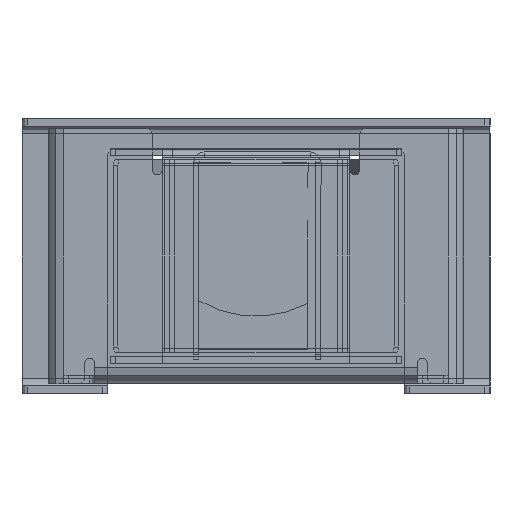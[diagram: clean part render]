
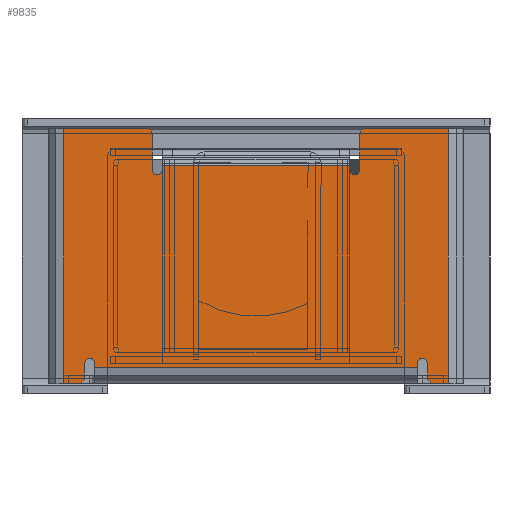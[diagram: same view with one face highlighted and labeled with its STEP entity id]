
A CAD part, front view. The second image highlights one B-rep face of the part: STEP entity #9835.
In plain terms, the highlighted planar face has unit normal (0, -1, 0).
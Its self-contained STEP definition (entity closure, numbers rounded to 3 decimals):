
#354=CIRCLE('',#10506,1.);
#363=CIRCLE('',#10518,1.);
#380=CIRCLE('',#10551,1.);
#381=CIRCLE('',#10554,1.);
#382=CIRCLE('',#10557,1.);
#383=CIRCLE('',#10560,1.);
#386=CIRCLE('',#10567,1.);
#387=CIRCLE('',#10570,1.);
#814=FACE_OUTER_BOUND('',#1392,.T.);
#1392=EDGE_LOOP('',(#6853,#6854,#6855,#6856,#6857,#6858,#6859,#6860,#6861,
#6862,#6863,#6864,#6865,#6866,#6867,#6868,#6869,#6870,#6871,#6872,#6873,
#6874,#6875,#6876));
#2107=LINE('',#14827,#3087);
#2125=LINE('',#14880,#3105);
#2166=LINE('',#14999,#3146);
#2170=LINE('',#15009,#3150);
#2174=LINE('',#15019,#3154);
#2181=LINE('',#15041,#3161);
#2183=LINE('',#15046,#3163);
#2184=LINE('',#15047,#3164);
#2185=LINE('',#15049,#3165);
#2186=LINE('',#15050,#3166);
#2187=LINE('',#15051,#3167);
#2188=LINE('',#15052,#3168);
#2189=LINE('',#15054,#3169);
#2190=LINE('',#15055,#3170);
#2191=LINE('',#15057,#3171);
#2192=LINE('',#15060,#3172);
#3087=VECTOR('',#11965,10.);
#3105=VECTOR('',#12005,10.);
#3146=VECTOR('',#12112,10.);
#3150=VECTOR('',#12122,10.);
#3154=VECTOR('',#12132,10.);
#3161=VECTOR('',#12159,10.);
#3163=VECTOR('',#12163,10.);
#3164=VECTOR('',#12164,10.);
#3165=VECTOR('',#12165,10.);
#3166=VECTOR('',#12166,10.);
#3167=VECTOR('',#12167,10.);
#3168=VECTOR('',#12168,10.);
#3169=VECTOR('',#12169,10.);
#3170=VECTOR('',#12170,10.);
#3171=VECTOR('',#12171,10.);
#3172=VECTOR('',#12174,10.);
#4011=VERTEX_POINT('',#14814);
#4012=VERTEX_POINT('',#14815);
#4016=VERTEX_POINT('',#14825);
#4038=VERTEX_POINT('',#14873);
#4039=VERTEX_POINT('',#14875);
#4040=VERTEX_POINT('',#14879);
#4083=VERTEX_POINT('',#14992);
#4084=VERTEX_POINT('',#14993);
#4085=VERTEX_POINT('',#14998);
#4086=VERTEX_POINT('',#15002);
#4087=VERTEX_POINT('',#15004);
#4088=VERTEX_POINT('',#15008);
#4089=VERTEX_POINT('',#15012);
#4090=VERTEX_POINT('',#15016);
#4091=VERTEX_POINT('',#15018);
#4092=VERTEX_POINT('',#15022);
#4095=VERTEX_POINT('',#15036);
#4096=VERTEX_POINT('',#15040);
#4097=VERTEX_POINT('',#15044);
#4098=VERTEX_POINT('',#15045);
#4099=VERTEX_POINT('',#15048);
#4100=VERTEX_POINT('',#15053);
#4101=VERTEX_POINT('',#15056);
#4102=VERTEX_POINT('',#15058);
#4987=EDGE_CURVE('',#4011,#4012,#354,.T.);
#4993=EDGE_CURVE('',#4011,#4016,#2107,.T.);
#5017=EDGE_CURVE('',#4038,#4039,#363,.T.);
#5019=EDGE_CURVE('',#4040,#4038,#2125,.T.);
#5074=EDGE_CURVE('',#4083,#4084,#380,.T.);
#5077=EDGE_CURVE('',#4085,#4084,#2166,.T.);
#5080=EDGE_CURVE('',#4086,#4087,#381,.T.);
#5082=EDGE_CURVE('',#4088,#4087,#2170,.T.);
#5084=EDGE_CURVE('',#4089,#4016,#382,.T.);
#5087=EDGE_CURVE('',#4091,#4090,#2174,.T.);
#5089=EDGE_CURVE('',#4092,#4090,#383,.T.);
#5096=EDGE_CURVE('',#4088,#4095,#386,.T.);
#5098=EDGE_CURVE('',#4095,#4096,#2181,.T.);
#5100=EDGE_CURVE('',#4097,#4098,#2183,.T.);
#5101=EDGE_CURVE('',#4012,#4098,#2184,.T.);
#5102=EDGE_CURVE('',#4089,#4099,#2185,.T.);
#5103=EDGE_CURVE('',#4099,#4091,#2186,.T.);
#5104=EDGE_CURVE('',#4092,#4039,#2187,.T.);
#5105=EDGE_CURVE('',#4040,#4096,#2188,.T.);
#5106=EDGE_CURVE('',#4086,#4100,#2189,.T.);
#5107=EDGE_CURVE('',#4100,#4085,#2190,.T.);
#5108=EDGE_CURVE('',#4083,#4101,#2191,.T.);
#5109=EDGE_CURVE('',#4102,#4101,#387,.T.);
#5110=EDGE_CURVE('',#4097,#4102,#2192,.T.);
#6853=ORIENTED_EDGE('',*,*,#5100,.T.);
#6854=ORIENTED_EDGE('',*,*,#5101,.F.);
#6855=ORIENTED_EDGE('',*,*,#4987,.F.);
#6856=ORIENTED_EDGE('',*,*,#4993,.T.);
#6857=ORIENTED_EDGE('',*,*,#5084,.F.);
#6858=ORIENTED_EDGE('',*,*,#5102,.T.);
#6859=ORIENTED_EDGE('',*,*,#5103,.T.);
#6860=ORIENTED_EDGE('',*,*,#5087,.T.);
#6861=ORIENTED_EDGE('',*,*,#5089,.F.);
#6862=ORIENTED_EDGE('',*,*,#5104,.T.);
#6863=ORIENTED_EDGE('',*,*,#5017,.F.);
#6864=ORIENTED_EDGE('',*,*,#5019,.F.);
#6865=ORIENTED_EDGE('',*,*,#5105,.T.);
#6866=ORIENTED_EDGE('',*,*,#5098,.F.);
#6867=ORIENTED_EDGE('',*,*,#5096,.F.);
#6868=ORIENTED_EDGE('',*,*,#5082,.T.);
#6869=ORIENTED_EDGE('',*,*,#5080,.F.);
#6870=ORIENTED_EDGE('',*,*,#5106,.T.);
#6871=ORIENTED_EDGE('',*,*,#5107,.T.);
#6872=ORIENTED_EDGE('',*,*,#5077,.T.);
#6873=ORIENTED_EDGE('',*,*,#5074,.F.);
#6874=ORIENTED_EDGE('',*,*,#5108,.T.);
#6875=ORIENTED_EDGE('',*,*,#5109,.F.);
#6876=ORIENTED_EDGE('',*,*,#5110,.F.);
#8806=PLANE('',#10569);
#9835=ADVANCED_FACE('',(#814),#8806,.T.);
#10506=AXIS2_PLACEMENT_3D('',#14816,#11955,#11956);
#10518=AXIS2_PLACEMENT_3D('',#14876,#12000,#12001);
#10551=AXIS2_PLACEMENT_3D('',#14994,#12106,#12107);
#10554=AXIS2_PLACEMENT_3D('',#15005,#12117,#12118);
#10557=AXIS2_PLACEMENT_3D('',#15013,#12126,#12127);
#10560=AXIS2_PLACEMENT_3D('',#15023,#12136,#12137);
#10567=AXIS2_PLACEMENT_3D('',#15037,#12154,#12155);
#10569=AXIS2_PLACEMENT_3D('',#15043,#12161,#12162);
#10570=AXIS2_PLACEMENT_3D('',#15059,#12172,#12173);
#11955=DIRECTION('center_axis',(0.,1.,0.));
#11956=DIRECTION('ref_axis',(-0.707,0.,0.707));
#11965=DIRECTION('',(0.,0.,-1.));
#12000=DIRECTION('center_axis',(0.,1.,0.));
#12001=DIRECTION('ref_axis',(0.707,0.,0.707));
#12005=DIRECTION('',(1.,0.,0.));
#12106=DIRECTION('center_axis',(0.,-1.,0.));
#12107=DIRECTION('ref_axis',(0.707,0.,0.707));
#12112=DIRECTION('',(0.,0.,1.));
#12117=DIRECTION('center_axis',(0.,-1.,0.));
#12118=DIRECTION('ref_axis',(0.707,0.,0.707));
#12122=DIRECTION('',(0.,0.,1.));
#12126=DIRECTION('center_axis',(0.,-1.,0.));
#12127=DIRECTION('ref_axis',(-0.707,0.,-0.707));
#12132=DIRECTION('',(0.,0.,-1.));
#12136=DIRECTION('center_axis',(0.,-1.,0.));
#12137=DIRECTION('ref_axis',(-0.707,0.,-0.707));
#12154=DIRECTION('center_axis',(0.,1.,0.));
#12155=DIRECTION('ref_axis',(0.707,0.,-0.707));
#12159=DIRECTION('',(-1.,0.,0.));
#12161=DIRECTION('center_axis',(0.,-1.,0.));
#12162=DIRECTION('ref_axis',(0.,0.,
1.));
#12163=DIRECTION('',(0.,0.,1.));
#12164=DIRECTION('',(1.,0.,0.));
#12165=DIRECTION('',(0.,0.,1.));
#12166=DIRECTION('',(-1.,0.,0.));
#12167=DIRECTION('',(0.,0.,1.));
#12168=DIRECTION('',(0.,0.,-1.));
#12169=DIRECTION('',(0.,0.,-1.));
#12170=DIRECTION('',(1.,0.,0.));
#12171=DIRECTION('',(0.,0.,-1.));
#12172=DIRECTION('center_axis',(0.,1.,0.));
#12173=DIRECTION('ref_axis',(-0.707,0.,-0.707));
#12174=DIRECTION('',(-1.,0.,0.));
#14814=CARTESIAN_POINT('',(20.,-1.5,23.5));
#14815=CARTESIAN_POINT('',(21.,-1.5,24.5));
#14816=CARTESIAN_POINT('Origin',(21.,-1.5,23.5));
#14825=CARTESIAN_POINT('',(20.,-1.5,16.5));
#14827=CARTESIAN_POINT('',(20.,-1.5,12.25));
#14873=CARTESIAN_POINT('',(-21.,-1.5,24.5));
#14875=CARTESIAN_POINT('',(-20.,-1.5,23.5));
#14876=CARTESIAN_POINT('Origin',(-21.,-1.5,23.5));
#14879=CARTESIAN_POINT('',(-37.,-1.5,24.5));
#14880=CARTESIAN_POINT('',(40.,-1.5,24.5));
#14992=CARTESIAN_POINT('',(33.,-1.5,-20.5));
#14993=CARTESIAN_POINT('',(31.,-1.5,-20.5));
#14994=CARTESIAN_POINT('Origin',(32.,-1.5,-20.5));
#14998=CARTESIAN_POINT('',(31.,-1.5,-21.5));
#14999=CARTESIAN_POINT('',(31.,-1.5,-12.25));
#15002=CARTESIAN_POINT('',(-31.,-1.5,-20.5));
#15004=CARTESIAN_POINT('',(-33.,-1.5,-20.5));
#15005=CARTESIAN_POINT('Origin',(-32.,-1.5,-20.5));
#15008=CARTESIAN_POINT('',(-33.,-1.5,-23.5));
#15009=CARTESIAN_POINT('',(-33.,-1.5,-12.25));
#15012=CARTESIAN_POINT('',(18.,-1.5,16.5));
#15013=CARTESIAN_POINT('Origin',(19.,-1.5,16.5));
#15016=CARTESIAN_POINT('',(-18.,-1.5,16.5));
#15018=CARTESIAN_POINT('',(-18.,-1.5,17.5));
#15019=CARTESIAN_POINT('',(-18.,-1.5,10.25));
#15022=CARTESIAN_POINT('',(-20.,-1.5,16.5));
#15023=CARTESIAN_POINT('Origin',(-19.,-1.5,16.5));
#15036=CARTESIAN_POINT('',(-34.,-1.5,-24.5));
#15037=CARTESIAN_POINT('Origin',(-34.,-1.5,-23.5));
#15040=CARTESIAN_POINT('',(-37.,-1.5,-24.5));
#15041=CARTESIAN_POINT('',(-40.,-1.5,-24.5));
#15043=CARTESIAN_POINT('Origin',(0.,-1.5,0.));
#15044=CARTESIAN_POINT('',(37.,-1.5,-24.5));
#15045=CARTESIAN_POINT('',(37.,-1.5,24.5));
#15046=CARTESIAN_POINT('',(37.,-1.5,-12.25));
#15047=CARTESIAN_POINT('',(40.,-1.5,24.5));
#15048=CARTESIAN_POINT('',(18.,-1.5,17.5));
#15049=CARTESIAN_POINT('',(18.,-1.5,7.75));
#15050=CARTESIAN_POINT('',(9.,-1.5,17.5));
#15051=CARTESIAN_POINT('',(-20.,-1.5,7.75));
#15052=CARTESIAN_POINT('',(-37.,-1.5,12.25));
#15053=CARTESIAN_POINT('',(-31.,-1.5,-21.5));
#15054=CARTESIAN_POINT('',(-31.,-1.5,-9.75));
#15055=CARTESIAN_POINT('',(-15.5,-1.5,-21.5));
#15056=CARTESIAN_POINT('',(33.,-1.5,-23.5));
#15057=CARTESIAN_POINT('',(33.,-1.5,-9.75));
#15058=CARTESIAN_POINT('',(34.,-1.5,-24.5));
#15059=CARTESIAN_POINT('Origin',(34.,-1.5,-23.5));
#15060=CARTESIAN_POINT('',(-40.,-1.5,-24.5));
